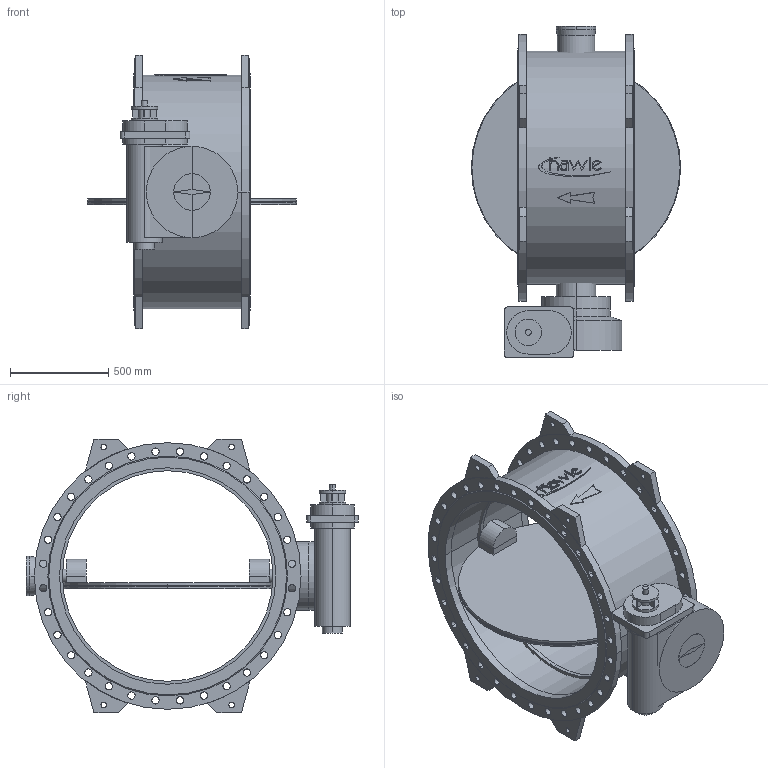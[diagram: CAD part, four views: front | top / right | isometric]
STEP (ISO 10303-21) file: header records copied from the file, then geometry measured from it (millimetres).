
FILE_DESCRIPTION(('STEP AP214'),'1');
FILE_NAME('S:/EK/USER/CAT6/3DHomepage_27-04-2012/neu_08-01-2013/9881K/9881K_PN10_DN1100.STP','2013-03-11T15:24:03',(' '),(' '),'Spatial InterOp 3D',' ',' ');
FILE_SCHEMA(('automotive_design'));
Length unit declared in the file: millimetre
Products named in the file (52): 3D-Objekt
Bounding box: 1064 x 1687 x 1390 mm (x, y, z)
Volume: 233478867.9 mm3; surface area: 12921802.2 mm2
Topology: 52 solids, 52 shells, 481 faces, 1122 edges, 748 vertices
Faces by surface type: cylinder 259, plane 214, cone 8
Entity records: 19308 total; most frequent: DIRECTION 2722, CARTESIAN_POINT 2403, ORIENTED_EDGE 2244, EDGE_CURVE 1122, AXIS2_PLACEMENT_3D 1067, VERTEX_POINT 748, EDGE_LOOP 640, LINE 588
